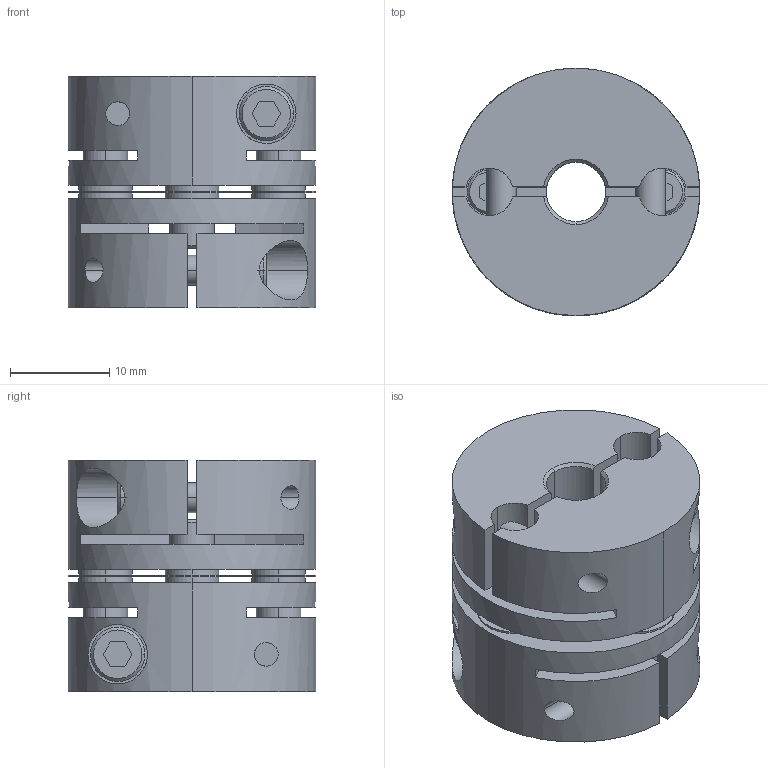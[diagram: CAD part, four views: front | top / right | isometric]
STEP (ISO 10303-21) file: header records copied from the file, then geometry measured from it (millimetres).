
FILE_DESCRIPTION((''),'2;1');
FILE_NAME('LAS-25C-6×10.stp','2011-08-10T10:20:00',(''),(''),'AutoCAD STEP 2000i','AutoCAD 2000i',', , ');
FILE_SCHEMA(('CONFIG_CONTROL_DESIGN'));
Length unit declared in the file: millimetre
Products named in the file (5): LAS-25C-6×6; 忣兜1; LA-2502-D06-1; LA-2502-D06; LAS25-ITA
Assembly tree (4 placements, depth 2):
  LAS-25C-6×6
    忣兜1
    LA-2502-D06-1
    LA-2502-D06
    LAS25-ITA
Bounding box: 25 x 25 x 23.4 mm (x, y, z)
Volume: 8371 mm3; surface area: 6835.9 mm2
Topology: 1 solids, 1 shells, 244 faces, 648 edges, 424 vertices
Faces by surface type: plane 112, cylinder 104, cone 28
Entity records: 8499 total; most frequent: CARTESIAN_POINT 2121, DIRECTION 1326, ORIENTED_EDGE 1296, EDGE_CURVE 648, AXIS2_PLACEMENT_3D 485, VERTEX_POINT 424, VECTOR 356, LINE 356
